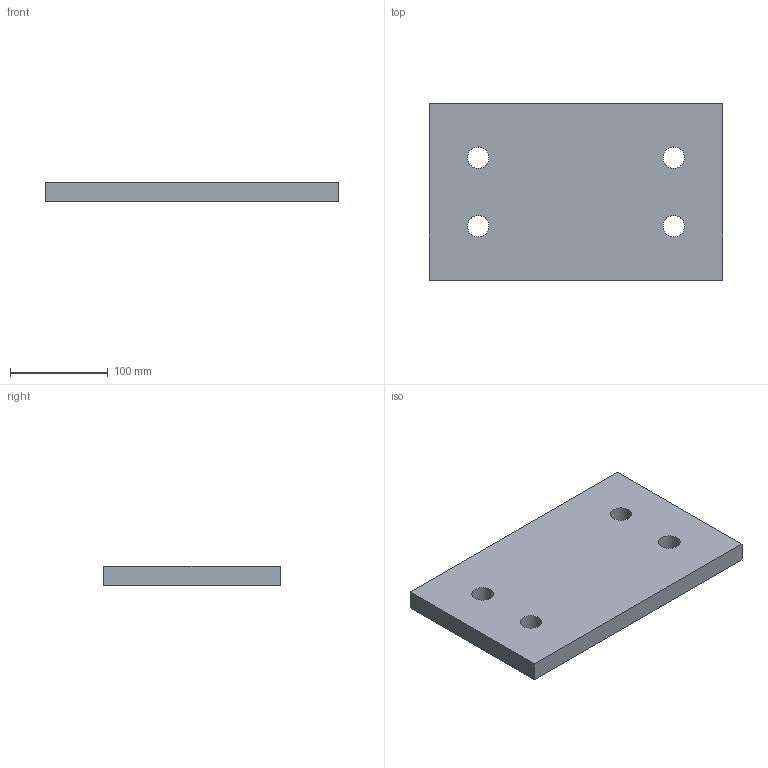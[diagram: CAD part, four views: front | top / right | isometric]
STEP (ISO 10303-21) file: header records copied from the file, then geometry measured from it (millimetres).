
FILE_DESCRIPTION(('Open CASCADE Model'),'2;1');
FILE_NAME('Open CASCADE Shape Model','2026-10-15T15:10:05',('Author'),( 'Open CASCADE'),'Open CASCADE STEP processor 8.0','Open CASCADE 8.0' ,'Unknown');
FILE_SCHEMA(('AUTOMOTIVE_DESIGN { 1 0 10303 214 1 1 1 1 }'));
Length unit declared in the file: millimetre
Products named in the file (1): TC01_SADDLE_300x180x20_P05 135
Bounding box: 300 x 180 x 20 mm (x, y, z)
Volume: 1049589.4 mm3; surface area: 129688.1 mm2
Topology: 1 solids, 1 shells, 10 faces, 24 edges, 16 vertices
Faces by surface type: plane 6, cylinder 4
Full cylindrical faces by diameter (mm): 22 x4
Entity records: 634 total; most frequent: DIRECTION 102, CARTESIAN_POINT 99, LINE 56, VECTOR 56, ORIENTED_EDGE 48, PCURVE 48, DEFINITIONAL_REPRESENTATION 48, EDGE_CURVE 24
